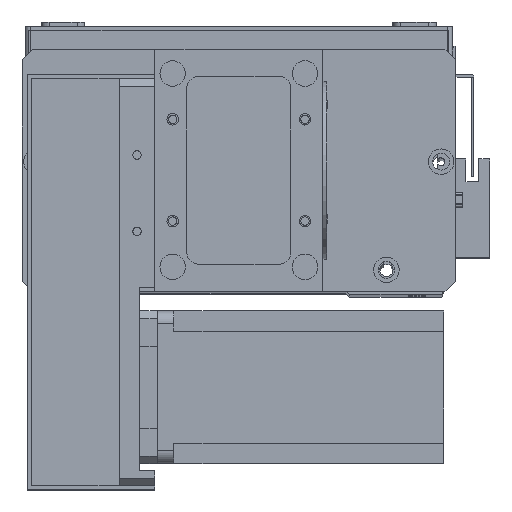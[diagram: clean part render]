
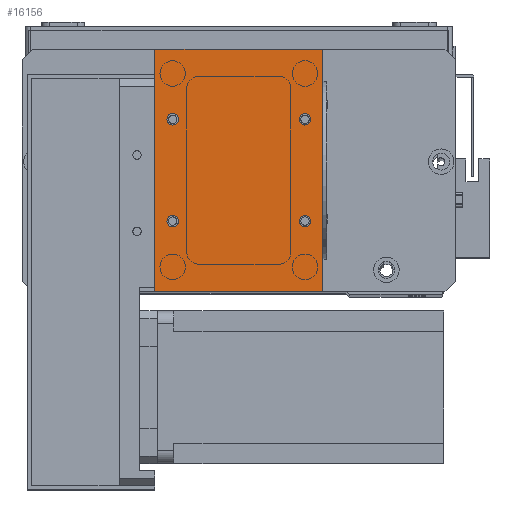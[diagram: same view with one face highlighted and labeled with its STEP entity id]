
A CAD part, top view. The second image highlights one B-rep face of the part: STEP entity #16156.
In plain terms, the highlighted planar face has unit normal (0, 0, 1).
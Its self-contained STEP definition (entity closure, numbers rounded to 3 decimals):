
#128 = EDGE_CURVE ( 'NONE', #15180, #7640, #19737, .T. ) ;
#422 = ORIENTED_EDGE ( 'NONE', *, *, #29129, .F. ) ;
#865 = DIRECTION ( 'NONE',  ( 1., 0., 0. ) ) ;
#999 = EDGE_LOOP ( 'NONE', ( #422, #16250 ) ) ;
#1072 = CARTESIAN_POINT ( 'NONE',  ( 4.75, 27.5, 2. ) ) ;
#1334 = FACE_OUTER_BOUND ( 'NONE', #21958, .T. ) ;
#1477 = VERTEX_POINT ( 'NONE', #29404 ) ;
#1788 = EDGE_CURVE ( 'NONE', #7834, #15074, #30337, .T. ) ;
#2427 = CARTESIAN_POINT ( 'NONE',  ( 59., 27.5, 2. ) ) ;
#2471 = VECTOR ( 'NONE', #26134, 1000. ) ;
#2697 = EDGE_CURVE ( 'NONE', #18986, #24988, #7663, .T. ) ;
#2807 = EDGE_CURVE ( 'NONE', #24988, #1477, #29524, .T. ) ;
#3853 = CARTESIAN_POINT ( 'NONE',  ( 0., 95., 2. ) ) ;
#4324 = EDGE_CURVE ( 'NONE', #1477, #25552, #26089, .T. ) ;
#4853 = DIRECTION ( 'NONE',  ( 1., 0., 0. ) ) ;
#5420 = CARTESIAN_POINT ( 'NONE',  ( 4.75, 67.5, 2. ) ) ;
#5860 = CIRCLE ( 'NONE', #29075, 2.25 ) ;
#6395 = CARTESIAN_POINT ( 'NONE',  ( 59., 67.5, 2. ) ) ;
#6531 = ORIENTED_EDGE ( 'NONE', *, *, #1788, .F. ) ;
#6877 = CARTESIAN_POINT ( 'NONE',  ( 7., 27.5, 2. ) ) ;
#7043 = CARTESIAN_POINT ( 'NONE',  ( 0., 0., 2. ) ) ;
#7295 = DIRECTION ( 'NONE',  ( 1., 0., 0. ) ) ;
#7545 = AXIS2_PLACEMENT_3D ( 'NONE', #9979, #26819, #12430 ) ;
#7640 = VERTEX_POINT ( 'NONE', #27437 ) ;
#7663 = LINE ( 'NONE', #16155, #20534 ) ;
#7714 = FACE_BOUND ( 'NONE', #16886, .T. ) ;
#7834 = VERTEX_POINT ( 'NONE', #1072 ) ;
#7923 = CARTESIAN_POINT ( 'NONE',  ( 9.25, 67.5, 2. ) ) ;
#8014 = VERTEX_POINT ( 'NONE', #16143 ) ;
#8831 = DIRECTION ( 'NONE',  ( 1., 0., 0. ) ) ;
#8896 = DIRECTION ( 'NONE',  ( -1., 0., 0. ) ) ;
#9028 = AXIS2_PLACEMENT_3D ( 'NONE', #6877, #19386, #7295 ) ;
#9373 = ORIENTED_EDGE ( 'NONE', *, *, #16695, .F. ) ;
#9979 = CARTESIAN_POINT ( 'NONE',  ( 7., 67.5, 2. ) ) ;
#10027 = CARTESIAN_POINT ( 'NONE',  ( 59., 67.5, 2. ) ) ;
#11161 = CARTESIAN_POINT ( 'NONE',  ( 9.25, 27.5, 2. ) ) ;
#11169 = AXIS2_PLACEMENT_3D ( 'NONE', #11236, #23358, #8896 ) ;
#11236 = CARTESIAN_POINT ( 'NONE',  ( 0., 0., 2. ) ) ;
#11405 = ORIENTED_EDGE ( 'NONE', *, *, #128, .F. ) ;
#11880 = ORIENTED_EDGE ( 'NONE', *, *, #2697, .T. ) ;
#12430 = DIRECTION ( 'NONE',  ( 1., 0., 0. ) ) ;
#12461 = DIRECTION ( 'NONE',  ( 1., 0., 0. ) ) ;
#12943 = ORIENTED_EDGE ( 'NONE', *, *, #26940, .F. ) ;
#13130 = ORIENTED_EDGE ( 'NONE', *, *, #25320, .F. ) ;
#13288 = VECTOR ( 'NONE', #29788, 1000. ) ;
#13580 = VERTEX_POINT ( 'NONE', #5420 ) ;
#14035 = DIRECTION ( 'NONE',  ( 0., 0., 1. ) ) ;
#14167 = FACE_BOUND ( 'NONE', #15963, .T. ) ;
#14295 = CIRCLE ( 'NONE', #29759, 2.25 ) ;
#14928 = FACE_BOUND ( 'NONE', #25880, .T. ) ;
#15074 = VERTEX_POINT ( 'NONE', #11161 ) ;
#15180 = VERTEX_POINT ( 'NONE', #25888 ) ;
#15337 = DIRECTION ( 'NONE',  ( 0., 0., 1. ) ) ;
#15727 = DIRECTION ( 'NONE',  ( 1., 0., 0. ) ) ;
#15922 = DIRECTION ( 'NONE',  ( 0., 0., 1. ) ) ;
#15963 = EDGE_LOOP ( 'NONE', ( #11405, #9373 ) ) ;
#16096 = ORIENTED_EDGE ( 'NONE', *, *, #16641, .T. ) ;
#16122 = DIRECTION ( 'NONE',  ( 0., -1., 0. ) ) ;
#16143 = CARTESIAN_POINT ( 'NONE',  ( 61.25, 67.5, 2. ) ) ;
#16155 = CARTESIAN_POINT ( 'NONE',  ( 0., 0., 2. ) ) ;
#16156 = ADVANCED_FACE ( 'NONE', ( #26955, #14928, #14167, #7714, #1334 ), #20941, .F. ) ;
#16250 = ORIENTED_EDGE ( 'NONE', *, *, #25652, .F. ) ;
#16319 = CIRCLE ( 'NONE', #24604, 2.25 ) ;
#16641 = EDGE_CURVE ( 'NONE', #25552, #18986, #28861, .T. ) ;
#16695 = EDGE_CURVE ( 'NONE', #7640, #15180, #5860, .T. ) ;
#16757 = VECTOR ( 'NONE', #20970, 1000. ) ;
#16886 = EDGE_LOOP ( 'NONE', ( #31026, #6531 ) ) ;
#17392 = ORIENTED_EDGE ( 'NONE', *, *, #2807, .T. ) ;
#18146 = CIRCLE ( 'NONE', #20626, 2.25 ) ;
#18986 = VERTEX_POINT ( 'NONE', #3853 ) ;
#19239 = CARTESIAN_POINT ( 'NONE',  ( 56.75, 67.5, 2. ) ) ;
#19304 = DIRECTION ( 'NONE',  ( 0., 0., 1. ) ) ;
#19386 = DIRECTION ( 'NONE',  ( 0., 0., 1. ) ) ;
#19737 = CIRCLE ( 'NONE', #27774, 2.25 ) ;
#20256 = CARTESIAN_POINT ( 'NONE',  ( 66., 0., 2. ) ) ;
#20534 = VECTOR ( 'NONE', #16122, 1000. ) ;
#20626 = AXIS2_PLACEMENT_3D ( 'NONE', #28446, #14035, #30857 ) ;
#20676 = CARTESIAN_POINT ( 'NONE',  ( 59., 27.5, 2. ) ) ;
#20926 = ORIENTED_EDGE ( 'NONE', *, *, #4324, .T. ) ;
#20941 = PLANE ( 'NONE',  #11169 ) ;
#20970 = DIRECTION ( 'NONE',  ( 1., 0., 0. ) ) ;
#21729 = CIRCLE ( 'NONE', #27797, 2.25 ) ;
#21815 = CIRCLE ( 'NONE', #7545, 2.25 ) ;
#21945 = CARTESIAN_POINT ( 'NONE',  ( 0., 0., 2. ) ) ;
#21958 = EDGE_LOOP ( 'NONE', ( #11880, #17392, #20926, #16096 ) ) ;
#23090 = VERTEX_POINT ( 'NONE', #7923 ) ;
#23303 = DIRECTION ( 'NONE',  ( 0., 0., 1. ) ) ;
#23358 = DIRECTION ( 'NONE',  ( 0., 0., -1. ) ) ;
#23651 = CARTESIAN_POINT ( 'NONE',  ( 0., 95., 2. ) ) ;
#24432 = VERTEX_POINT ( 'NONE', #19239 ) ;
#24604 = AXIS2_PLACEMENT_3D ( 'NONE', #29717, #15337, #865 ) ;
#24988 = VERTEX_POINT ( 'NONE', #7043 ) ;
#25320 = EDGE_CURVE ( 'NONE', #8014, #24432, #14295, .T. ) ;
#25552 = VERTEX_POINT ( 'NONE', #28723 ) ;
#25652 = EDGE_CURVE ( 'NONE', #13580, #23090, #21815, .T. ) ;
#25880 = EDGE_LOOP ( 'NONE', ( #13130, #12943 ) ) ;
#25888 = CARTESIAN_POINT ( 'NONE',  ( 61.25, 27.5, 2. ) ) ;
#26089 = LINE ( 'NONE', #20256, #13288 ) ;
#26134 = DIRECTION ( 'NONE',  ( -1., 0., 0. ) ) ;
#26819 = DIRECTION ( 'NONE',  ( 0., 0., 1. ) ) ;
#26851 = DIRECTION ( 'NONE',  ( 0., 0., 1. ) ) ;
#26940 = EDGE_CURVE ( 'NONE', #24432, #8014, #21729, .T. ) ;
#26955 = FACE_BOUND ( 'NONE', #999, .T. ) ;
#27437 = CARTESIAN_POINT ( 'NONE',  ( 56.75, 27.5, 2. ) ) ;
#27774 = AXIS2_PLACEMENT_3D ( 'NONE', #20676, #15922, #15727 ) ;
#27797 = AXIS2_PLACEMENT_3D ( 'NONE', #10027, #26851, #12461 ) ;
#28446 = CARTESIAN_POINT ( 'NONE',  ( 7., 27.5, 2. ) ) ;
#28723 = CARTESIAN_POINT ( 'NONE',  ( 66., 95., 2. ) ) ;
#28861 = LINE ( 'NONE', #23651, #2471 ) ;
#29075 = AXIS2_PLACEMENT_3D ( 'NONE', #2427, #19304, #4853 ) ;
#29129 = EDGE_CURVE ( 'NONE', #23090, #13580, #16319, .T. ) ;
#29404 = CARTESIAN_POINT ( 'NONE',  ( 66., 0., 2. ) ) ;
#29524 = LINE ( 'NONE', #21945, #16757 ) ;
#29717 = CARTESIAN_POINT ( 'NONE',  ( 7., 67.5, 2. ) ) ;
#29759 = AXIS2_PLACEMENT_3D ( 'NONE', #6395, #23303, #8831 ) ;
#29788 = DIRECTION ( 'NONE',  ( 0., 1., 0. ) ) ;
#30246 = EDGE_CURVE ( 'NONE', #15074, #7834, #18146, .T. ) ;
#30337 = CIRCLE ( 'NONE', #9028, 2.25 ) ;
#30857 = DIRECTION ( 'NONE',  ( 1., 0., 0. ) ) ;
#31026 = ORIENTED_EDGE ( 'NONE', *, *, #30246, .F. ) ;
